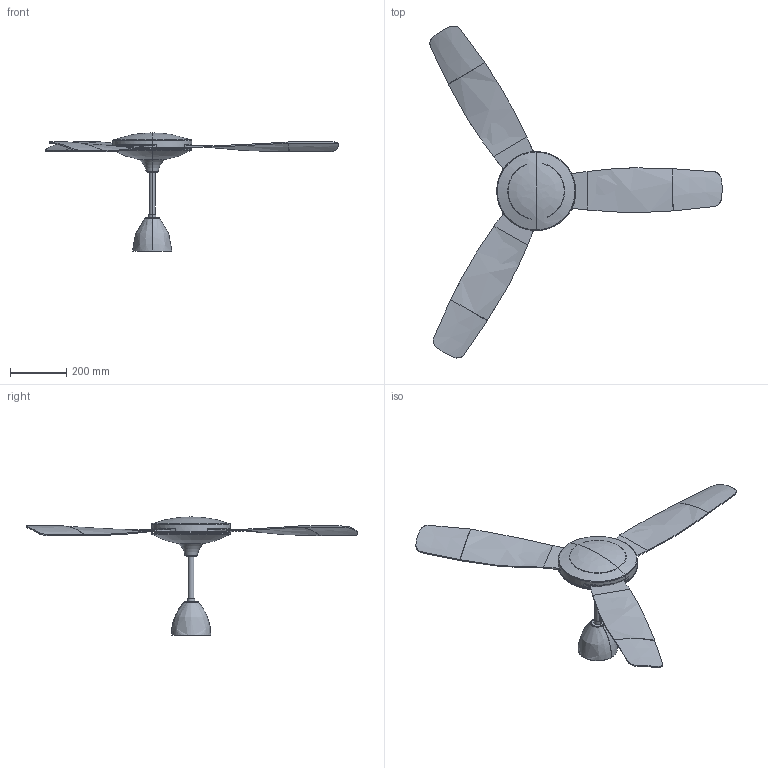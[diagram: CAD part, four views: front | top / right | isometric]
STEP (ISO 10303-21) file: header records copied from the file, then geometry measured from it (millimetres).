
FILE_DESCRIPTION(/* description */ (''),/* implementation_level */ '2;1');
FILE_NAME(/* name */ 'C:\Users\francosartori\Documents\Modelos\01_Digitalizados\0_ISLOT\03_Publicación\33802.stp',/* time_stamp */ '2020-06-05T14:26:52+02:00',/* author */ ('FrancoSartori'),/* organization */ (''),/* preprocessor_version */ 'ST-DEVELOPER v18.1',/* originating_system */ 'AutoCAD Mechanical',/* authorisation */ '');
FILE_SCHEMA (('AUTOMOTIVE_DESIGN { 1 0 10303 214 3 1 1 }'));
Length unit declared in the file: millimetre
Products named in the file (2): Product; 33802_ISLOT - ISLOT-444976-_3D_
Assembly tree (1 placements, depth 2):
  Product
    33802_ISLOT - ISLOT-444976-_3D_
Bounding box: 1036.6 x 1177.72 x 418.67 mm (x, y, z)
Volume: 1696041.4 mm3; surface area: 1118164.1 mm2
Topology: 15 solids, 16 shells, 199 faces, 455 edges, 284 vertices
Faces by surface type: plane 79, cylinder 75, bspline 26, torus 16, cone 3
Entity records: 8033 total; most frequent: CARTESIAN_POINT 3817, ORIENTED_EDGE 902, DIRECTION 769, EDGE_CURVE 451, AXIS2_PLACEMENT_3D 288, VERTEX_POINT 284, EDGE_LOOP 203, FACE_OUTER_BOUND 199
